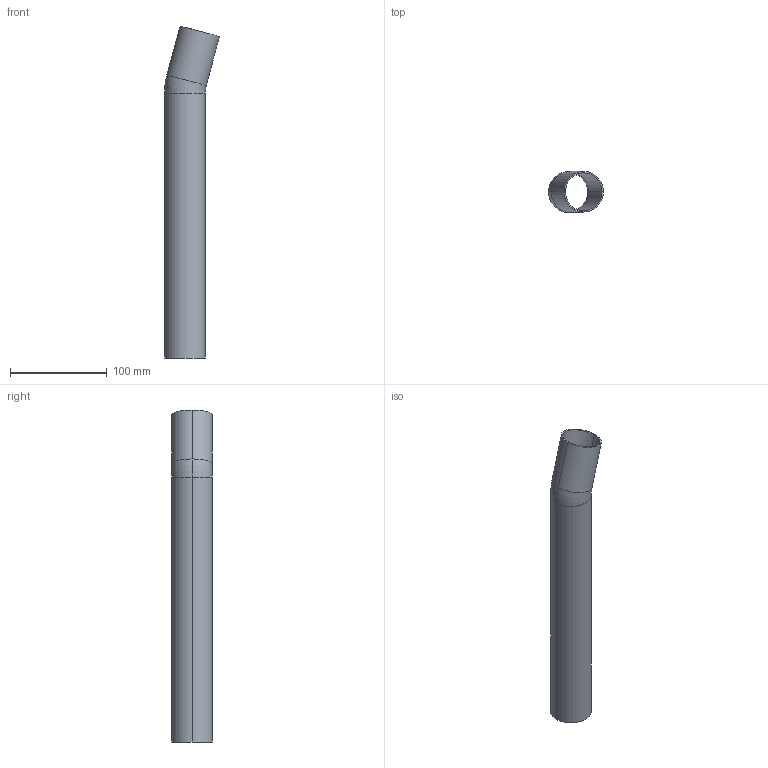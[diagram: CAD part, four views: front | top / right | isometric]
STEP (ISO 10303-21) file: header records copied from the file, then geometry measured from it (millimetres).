
FILE_DESCRIPTION(('OneSpaceDesigner STEP Export'),'2;1');
FILE_NAME('R2722 42x42.stp','2010-06-10T12:48:10',(''),(''),'OneSpace Designer STEP processor for AP214 (Solid Model)','OneSpace Modeling 15.00A 14-Mar-2007 (C) CoCreate Software GmbH','');
FILE_SCHEMA(('AUTOMOTIVE_DESIGN { 1 0 10303 214 1 1 1 1 }'));
Length unit declared in the file: millimetre
Products named in the file (2): R2722_42x42
Assembly tree (1 placements, depth 2):
  R2722_42x42
    R2722_42x42
Bounding box: 56.55 x 42 x 342.42 mm (x, y, z)
Volume: 64684.1 mm3; surface area: 86627.2 mm2
Topology: 1 solids, 1 shells, 14 faces, 29 edges, 17 vertices
Faces by surface type: cylinder 8, torus 4, plane 2
Entity records: 362 total; most frequent: ORIENTED_EDGE 58, DIRECTION 56, CARTESIAN_POINT 49, EDGE_CURVE 29, AXIS2_PLACEMENT_3D 24, VERTEX_POINT 17, EDGE_LOOP 16, CIRCLE 14
